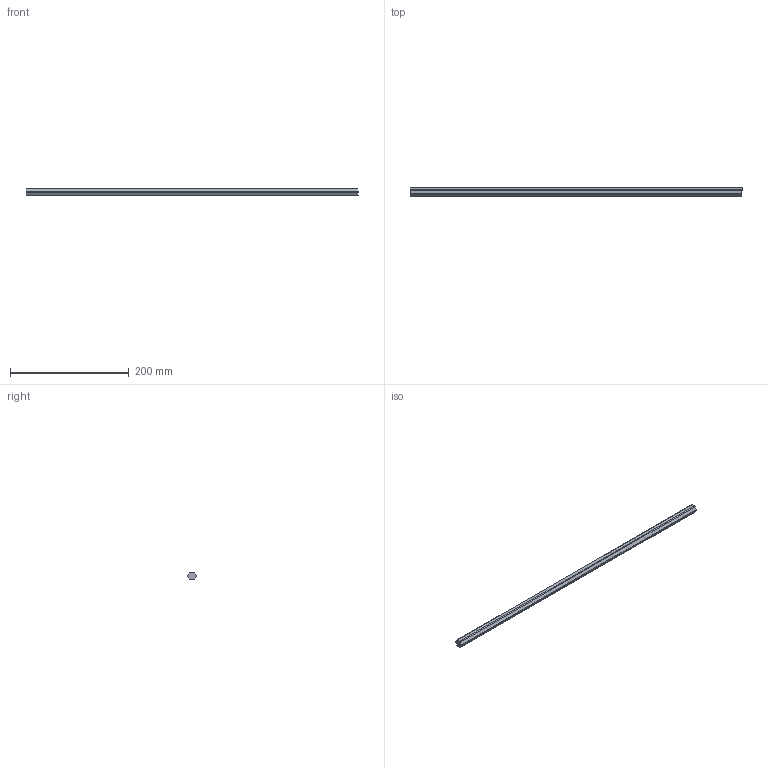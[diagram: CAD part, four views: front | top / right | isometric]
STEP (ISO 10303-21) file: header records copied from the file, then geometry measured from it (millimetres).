
FILE_DESCRIPTION (( 'STEP AP214' ), '1' );
FILE_NAME ('Hex_Shafts_22in_KB-26002.step', '2025-12-23T15:52:19', ( '' ), ( '' ), 'SwSTEP 2.0', 'SolidWorks 2026', '' );
FILE_SCHEMA (( 'AUTOMOTIVE_DESIGN' ));
Length unit declared in the file: inch
Products named in the file (1): Hex_Shafts_22in_KB-26002
Bounding box: 558.8 x 13.72 x 12.7 mm (x, y, z)
Volume: 76690.7 mm3; surface area: 23927.2 mm2
Topology: 1 solids, 1 shells, 15 faces, 39 edges, 26 vertices
Faces by surface type: plane 8, cylinder 7
Entity records: 494 total; most frequent: DIRECTION 85, CARTESIAN_POINT 81, ORIENTED_EDGE 78, EDGE_CURVE 39, AXIS2_PLACEMENT_3D 30, VERTEX_POINT 26, LINE 25, VECTOR 25
